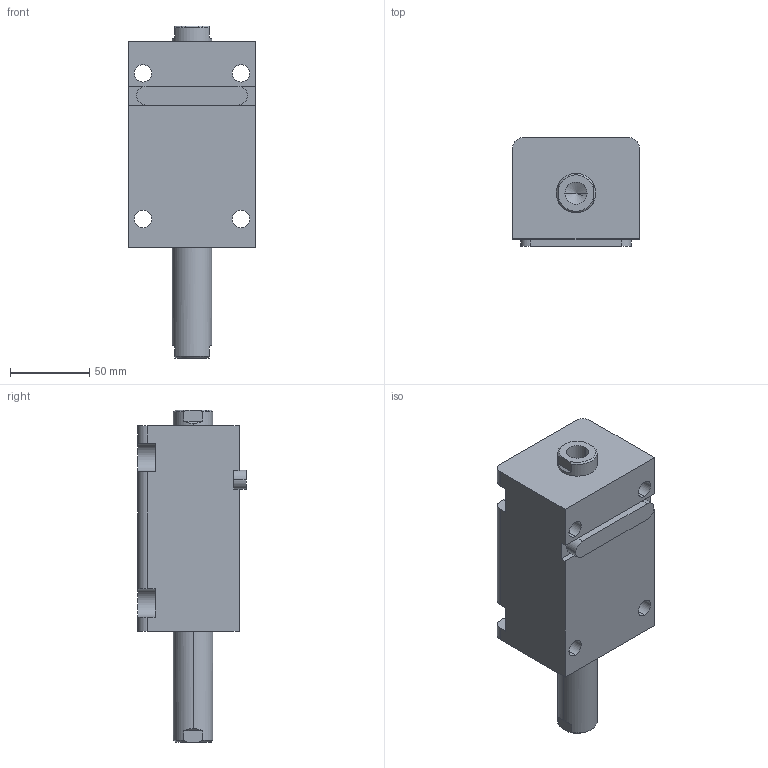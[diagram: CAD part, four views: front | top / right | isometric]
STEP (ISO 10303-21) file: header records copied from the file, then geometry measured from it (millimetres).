
FILE_DESCRIPTION (( 'STEP AP203' ), '1' );
FILE_NAME ('HTB-LW40-60N.STEP', '2019-10-09T07:56:54', ( '微软用户' ), ( '微软中国' ), 'SwSTEP 2.0', 'SolidWorks 2012', '' );
FILE_SCHEMA (( 'CONFIG_CONTROL_DESIGN' ));
Length unit declared in the file: millimetre
Products named in the file (4): HTB-LW40-60N; HTB-LA40-瑩; HTB-LW40-60N活塞杆; HTB-LW40-60掛极
Assembly tree (3 placements, depth 2):
  HTB-LW40-60N
    HTB-LW40-60掛极
    HTB-LW40-60N活塞杆
    HTB-LA40-瑩
Bounding box: 80 x 68.5 x 210 mm (x, y, z)
Volume: 617883.9 mm3; surface area: 94933.6 mm2
Topology: 3 solids, 3 shells, 105 faces, 261 edges, 168 vertices
Faces by surface type: plane 44, cylinder 41, cone 12, torus 8
Entity records: 3567 total; most frequent: CARTESIAN_POINT 588, DIRECTION 573, ORIENTED_EDGE 514, EDGE_CURVE 257, AXIS2_PLACEMENT_3D 221, VERTEX_POINT 168, LINE 131, VECTOR 131
